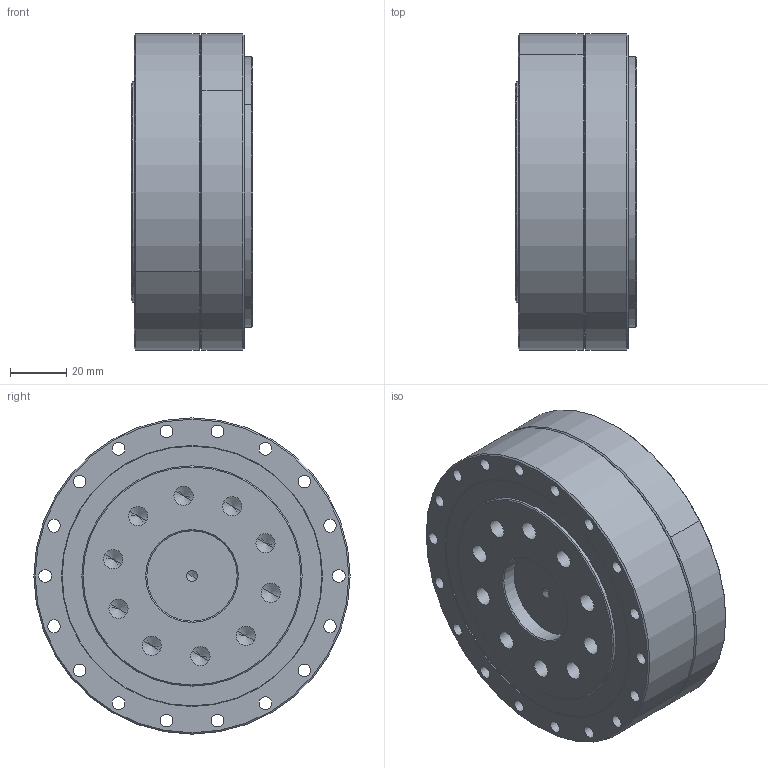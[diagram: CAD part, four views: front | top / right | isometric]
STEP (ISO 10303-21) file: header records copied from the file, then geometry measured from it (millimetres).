
FILE_DESCRIPTION (( 'STEP AP203' ), '1' );
FILE_NAME ('FCD-32-160-AJ.STEP', '2022-06-13T02:32:12', ( '微软用户' ), ( '微软中国' ), 'SwSTEP 2.0', 'SolidWorks 2016', '' );
FILE_SCHEMA (( 'CONFIG_CONTROL_DESIGN' ));
Length unit declared in the file: millimetre
Products named in the file (1): FCD-32-160-AJ
Bounding box: 43 x 112 x 112 mm (x, y, z)
Volume: 289713.6 mm3; surface area: 137856.9 mm2
Topology: 45 solids, 45 shells, 821 faces, 1999 edges, 1248 vertices
Faces by surface type: cylinder 357, plane 210, cone 130, torus 72, sphere 46, bspline 6
Entity records: 25616 total; most frequent: CARTESIAN_POINT 6093, DIRECTION 4527, ORIENTED_EDGE 3672, AXIS2_PLACEMENT_3D 1888, EDGE_CURVE 1836, VERTEX_POINT 1179, CIRCLE 1072, EDGE_LOOP 1015
